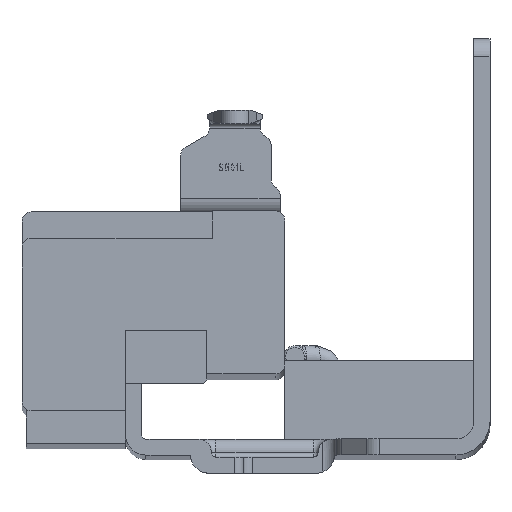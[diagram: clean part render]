
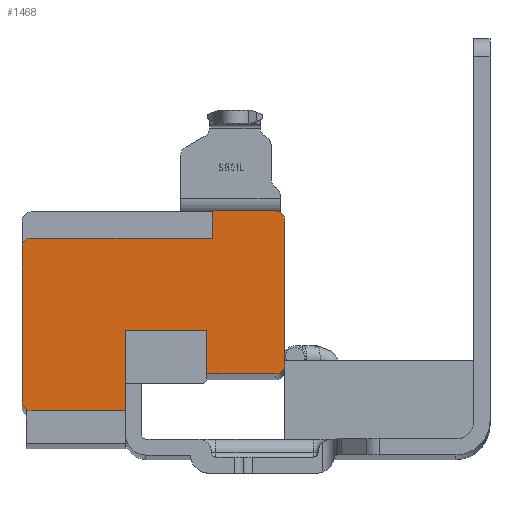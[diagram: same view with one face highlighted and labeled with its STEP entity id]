
A CAD part, top view. The second image highlights one B-rep face of the part: STEP entity #1468.
In plain terms, the highlighted planar face has unit normal (0, 0, 1).
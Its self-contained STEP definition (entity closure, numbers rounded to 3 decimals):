
#40 = VECTOR ( 'NONE', #7776, 1000. ) ;
#110 = DIRECTION ( 'NONE',  ( 0., 0., -1. ) ) ;
#158 = EDGE_CURVE ( 'NONE', #2011, #2492, #6709, .T. ) ;
#414 = CARTESIAN_POINT ( 'NONE',  ( -42.85, -13., -18.7 ) ) ;
#420 = VECTOR ( 'NONE', #3211, 1000. ) ;
#505 = AXIS2_PLACEMENT_3D ( 'NONE', #6739, #1439, #7658 ) ;
#793 = VERTEX_POINT ( 'NONE', #6220 ) ;
#796 = CARTESIAN_POINT ( 'NONE',  ( -42.85, 3., -18.7 ) ) ;
#818 = CARTESIAN_POINT ( 'NONE',  ( -40.3, 0., -18.7 ) ) ;
#1115 = FACE_OUTER_BOUND ( 'NONE', #9045, .T. ) ;
#1146 = CARTESIAN_POINT ( 'NONE',  ( -60.45, -9.185, -18.7 ) ) ;
#1206 = ORIENTED_EDGE ( 'NONE', *, *, #2134, .F. ) ;
#1402 = CARTESIAN_POINT ( 'NONE',  ( -70.91, 0.03, -18.7 ) ) ;
#1439 = DIRECTION ( 'NONE',  ( 0., 0., -1. ) ) ;
#1468 = ADVANCED_FACE ( 'NONE', ( #1115 ), #5165, .T. ) ;
#1475 = LINE ( 'NONE', #3652, #3794 ) ;
#1667 = CARTESIAN_POINT ( 'NONE',  ( -43.85, 3., -18.7 ) ) ;
#1759 = AXIS2_PLACEMENT_3D ( 'NONE', #5373, #110, #6270 ) ;
#1813 = LINE ( 'NONE', #8713, #40 ) ;
#1883 = VERTEX_POINT ( 'NONE', #3108 ) ;
#1952 = CARTESIAN_POINT ( 'NONE',  ( -60.45, -18.1, -18.7 ) ) ;
#1959 = VECTOR ( 'NONE', #2751, 1000. ) ;
#2011 = VERTEX_POINT ( 'NONE', #2435 ) ;
#2134 = EDGE_CURVE ( 'NONE', #7139, #10378, #3708, .T. ) ;
#2282 = DIRECTION ( 'NONE',  ( -1., 0., 0. ) ) ;
#2380 = ORIENTED_EDGE ( 'NONE', *, *, #5964, .T. ) ;
#2429 = DIRECTION ( 'NONE',  ( 0., 1., 0. ) ) ;
#2435 = CARTESIAN_POINT ( 'NONE',  ( -51.45, -14., -18.7 ) ) ;
#2492 = VERTEX_POINT ( 'NONE', #6318 ) ;
#2543 = DIRECTION ( 'NONE',  ( -1., 0., 0. ) ) ;
#2558 = VERTEX_POINT ( 'NONE', #3772 ) ;
#2563 = VERTEX_POINT ( 'NONE', #1146 ) ;
#2751 = DIRECTION ( 'NONE',  ( 1., 0., 0. ) ) ;
#2835 = VERTEX_POINT ( 'NONE', #7742 ) ;
#2996 = VECTOR ( 'NONE', #4815, 1000. ) ;
#3108 = CARTESIAN_POINT ( 'NONE',  ( -43.85, -14., -18.7 ) ) ;
#3211 = DIRECTION ( 'NONE',  ( -1., 0., 0. ) ) ;
#3239 = VERTEX_POINT ( 'NONE', #796 ) ;
#3336 = EDGE_CURVE ( 'NONE', #9366, #1883, #9703, .T. ) ;
#3386 = CARTESIAN_POINT ( 'NONE',  ( -50.85, 1., -18.7 ) ) ;
#3570 = EDGE_CURVE ( 'NONE', #2563, #10231, #5359, .T. ) ;
#3652 = CARTESIAN_POINT ( 'NONE',  ( -71.88, 0., -18.7 ) ) ;
#3671 = ORIENTED_EDGE ( 'NONE', *, *, #6880, .F. ) ;
#3708 = LINE ( 'NONE', #3386, #8204 ) ;
#3724 = EDGE_CURVE ( 'NONE', #4661, #3239, #9259, .T. ) ;
#3772 = CARTESIAN_POINT ( 'NONE',  ( -70.91, 1., -18.7 ) ) ;
#3794 = VECTOR ( 'NONE', #5446, 1000. ) ;
#3805 = VECTOR ( 'NONE', #9485, 1000. ) ;
#4069 = EDGE_CURVE ( 'NONE', #2835, #2558, #4377, .T. ) ;
#4141 = CARTESIAN_POINT ( 'NONE',  ( -40.3, -14., -18.7 ) ) ;
#4345 = VECTOR ( 'NONE', #2429, 1000. ) ;
#4377 = CIRCLE ( 'NONE', #4854, 0.97 ) ;
#4661 = VERTEX_POINT ( 'NONE', #4842 ) ;
#4689 = AXIS2_PLACEMENT_3D ( 'NONE', #818, #5046, #8779 ) ;
#4721 = CARTESIAN_POINT ( 'NONE',  ( -41.05, 1., -18.7 ) ) ;
#4726 = ORIENTED_EDGE ( 'NONE', *, *, #8536, .T. ) ;
#4815 = DIRECTION ( 'NONE',  ( 0., -1., 0. ) ) ;
#4842 = CARTESIAN_POINT ( 'NONE',  ( -43.85, 4., -18.7 ) ) ;
#4854 = AXIS2_PLACEMENT_3D ( 'NONE', #1402, #7612, #2282 ) ;
#5046 = DIRECTION ( 'NONE',  ( 0., 0., 1. ) ) ;
#5086 = AXIS2_PLACEMENT_3D ( 'NONE', #1667, #7891, #2543 ) ;
#5097 = LINE ( 'NONE', #4141, #420 ) ;
#5139 = EDGE_CURVE ( 'NONE', #3239, #9366, #10108, .T. ) ;
#5165 = PLANE ( 'NONE',  #4689 ) ;
#5170 = ORIENTED_EDGE ( 'NONE', *, *, #6777, .F. ) ;
#5359 = LINE ( 'NONE', #7448, #2996 ) ;
#5373 = CARTESIAN_POINT ( 'NONE',  ( -43.85, -13., -18.7 ) ) ;
#5428 = EDGE_CURVE ( 'NONE', #2835, #793, #1475, .T. ) ;
#5446 = DIRECTION ( 'NONE',  ( 0., -1., 0. ) ) ;
#5515 = CARTESIAN_POINT ( 'NONE',  ( -50.85, 1., -18.7 ) ) ;
#5780 = VECTOR ( 'NONE', #8615, 1000. ) ;
#5945 = ORIENTED_EDGE ( 'NONE', *, *, #4069, .F. ) ;
#5964 = EDGE_CURVE ( 'NONE', #7112, #10231, #8794, .T. ) ;
#6220 = CARTESIAN_POINT ( 'NONE',  ( -71.88, -17.1, -18.7 ) ) ;
#6221 = CARTESIAN_POINT ( 'NONE',  ( -51.45, -10.845, -18.7 ) ) ;
#6270 = DIRECTION ( 'NONE',  ( -1., 0., 0. ) ) ;
#6318 = CARTESIAN_POINT ( 'NONE',  ( -51.45, -9.185, -18.7 ) ) ;
#6340 = CARTESIAN_POINT ( 'NONE',  ( -70.88, -18.1, -18.7 ) ) ;
#6709 = LINE ( 'NONE', #6221, #4345 ) ;
#6728 = ORIENTED_EDGE ( 'NONE', *, *, #11187, .F. ) ;
#6739 = CARTESIAN_POINT ( 'NONE',  ( -70.88, -17.1, -18.7 ) ) ;
#6777 = EDGE_CURVE ( 'NONE', #7112, #793, #10011, .T. ) ;
#6880 = EDGE_CURVE ( 'NONE', #10378, #4661, #1813, .T. ) ;
#7016 = ORIENTED_EDGE ( 'NONE', *, *, #3336, .F. ) ;
#7112 = VERTEX_POINT ( 'NONE', #6340 ) ;
#7139 = VERTEX_POINT ( 'NONE', #5515 ) ;
#7448 = CARTESIAN_POINT ( 'NONE',  ( -60.45, 0., -18.7 ) ) ;
#7612 = DIRECTION ( 'NONE',  ( 0., 0., -1. ) ) ;
#7658 = DIRECTION ( 'NONE',  ( -1., 0., 0. ) ) ;
#7742 = CARTESIAN_POINT ( 'NONE',  ( -71.88, 0.03, -18.7 ) ) ;
#7776 = DIRECTION ( 'NONE',  ( 1., 0., 0. ) ) ;
#7891 = DIRECTION ( 'NONE',  ( 0., 0., -1. ) ) ;
#8051 = ORIENTED_EDGE ( 'NONE', *, *, #5428, .T. ) ;
#8105 = CARTESIAN_POINT ( 'NONE',  ( -40.3, -18.1, -18.7 ) ) ;
#8132 = ORIENTED_EDGE ( 'NONE', *, *, #158, .F. ) ;
#8204 = VECTOR ( 'NONE', #10576, 1000. ) ;
#8319 = LINE ( 'NONE', #4721, #10413 ) ;
#8412 = CARTESIAN_POINT ( 'NONE',  ( -50.85, 4., -18.7 ) ) ;
#8536 = EDGE_CURVE ( 'NONE', #2563, #2492, #9976, .T. ) ;
#8615 = DIRECTION ( 'NONE',  ( 1., 0., 0. ) ) ;
#8713 = CARTESIAN_POINT ( 'NONE',  ( -48.65, 4., -18.7 ) ) ;
#8763 = EDGE_CURVE ( 'NONE', #7139, #2558, #8319, .T. ) ;
#8779 = DIRECTION ( 'NONE',  ( -1., 0., 0. ) ) ;
#8794 = LINE ( 'NONE', #8105, #1959 ) ;
#8865 = ORIENTED_EDGE ( 'NONE', *, *, #8763, .T. ) ;
#9045 = EDGE_LOOP ( 'NONE', ( #1206, #8865, #5945, #8051, #5170, #2380, #9660, #4726, #8132, #6728, #7016, #9768, #10599, #3671 ) ) ;
#9259 = CIRCLE ( 'NONE', #5086, 1. ) ;
#9366 = VERTEX_POINT ( 'NONE', #414 ) ;
#9400 = CARTESIAN_POINT ( 'NONE',  ( -42.85, 0., -18.7 ) ) ;
#9485 = DIRECTION ( 'NONE',  ( 0., -1., 0. ) ) ;
#9536 = CARTESIAN_POINT ( 'NONE',  ( -58.68, -9.185, -18.7 ) ) ;
#9660 = ORIENTED_EDGE ( 'NONE', *, *, #3570, .F. ) ;
#9703 = CIRCLE ( 'NONE', #1759, 1. ) ;
#9768 = ORIENTED_EDGE ( 'NONE', *, *, #5139, .F. ) ;
#9976 = LINE ( 'NONE', #9536, #5780 ) ;
#10011 = CIRCLE ( 'NONE', #505, 1. ) ;
#10076 = DIRECTION ( 'NONE',  ( -1., 0., 0. ) ) ;
#10108 = LINE ( 'NONE', #9400, #3805 ) ;
#10231 = VERTEX_POINT ( 'NONE', #1952 ) ;
#10378 = VERTEX_POINT ( 'NONE', #8412 ) ;
#10413 = VECTOR ( 'NONE', #10076, 1000. ) ;
#10576 = DIRECTION ( 'NONE',  ( 0., 1., 0. ) ) ;
#10599 = ORIENTED_EDGE ( 'NONE', *, *, #3724, .F. ) ;
#11187 = EDGE_CURVE ( 'NONE', #1883, #2011, #5097, .T. ) ;
